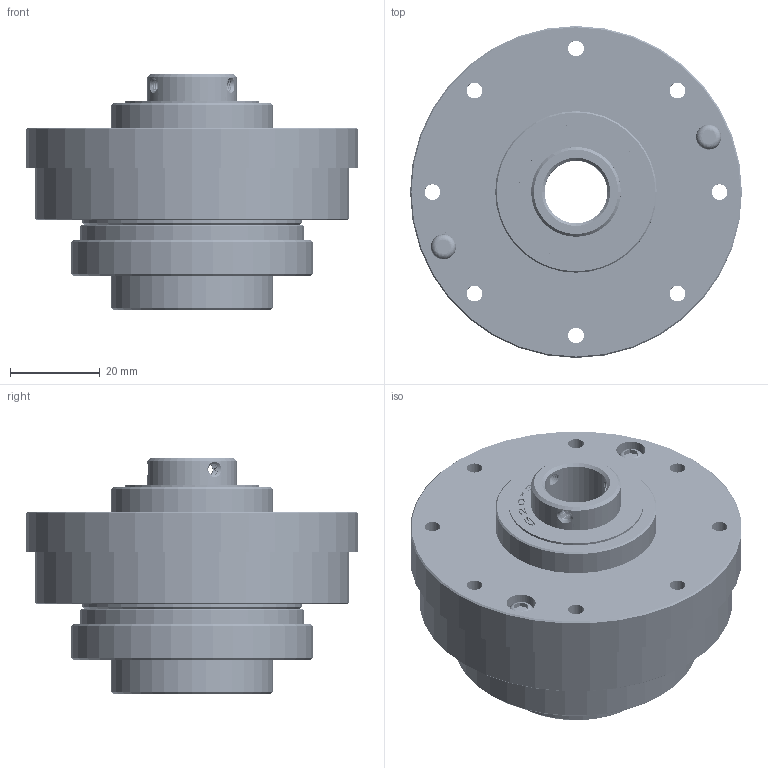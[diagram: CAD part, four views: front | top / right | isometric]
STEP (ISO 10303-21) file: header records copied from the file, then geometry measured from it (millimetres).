
FILE_DESCRIPTION(/* description */ (''),/* implementation_level */ '2;1');
FILE_NAME(/* name */ 'XBK14成品图.stp',/* time_stamp */ '2022-07-23T08:33:08+08:00',/* author */ (''),/* organization */ (''),/* preprocessor_version */ 'ST-DEVELOPER v16',/* originating_system */ 'SIEMENS PLM Software NX 10.0',/* authorisation */ '');
FILE_SCHEMA (('CONFIG_CONTROL_DESIGN'));
Products named in the file (16): 14柔性轴承保持架（日标）; G20305; M3X14; YM3X12; XBK14-6上盖板; XBK14-3-1凸轮; XBK14-1钢轮; 深沟球轴承6804; M2X6; XBK14-4-1-1销子; G49585; XBK14-4-1内芯; XBK14-4-2外圈; XBK14-2柔轮; 14柔性轴承（日标）_MODEL; XBK14成品图
Assembly tree (21 placements, depth 3):
  XBK14成品图
    XBK14-2柔轮
    XBK14-4-2外圈
    XBK14-4-1内芯
    G49585
    XBK14-4-1-1销子
    M2X6
    深沟球轴承6804  x2
    XBK14-1钢轮
    XBK14-3-1凸轮
    14柔性轴承（日标）_MODEL
      14柔性轴承保持架（日标）
    XBK14-6上盖板
    YM3X12  x2
    M3X14  x4
    G20305  x2
Bounding box: 74 x 74 x 52.5 mm (x, y, z)
Volume: 92149.2 mm3; surface area: 83303.7 mm2
Topology: 76 solids, 76 shells, 1103 faces, 2768 edges, 1816 vertices
Faces by surface type: plane 454, cylinder 249, cone 132, extrusion 123, bspline 74, sphere 51, torus 20
Full cylindrical faces by diameter (mm): 2.3 x1, 2.6 x2, 3.5 x52, 4 x2, 5.6 x2, 5.68 x4, 6 x4, 6.5 x2, 14 x1, 19.5 x2, 20 x6, 22 x2, 23 x4, 24 x3, 25.07 x1, 26 x1, 26.67 x2, 27 x2, 27.5 x1, 29 x4, 29.5 x1, 30 x4, 31.5 x1, 32 x4, 32.396 x2, 33.896 x2, 35 x1, 36 x4, 38 x3, 38.3 x1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
Entity records: 112777 total; most frequent: CARTESIAN_POINT 92380, ORIENTED_EDGE 3520, DIRECTION 3417, EDGE_CURVE 1760, AXIS2_PLACEMENT_3D 1398, VERTEX_POINT 1337, EDGE_LOOP 1332, ADVANCED_FACE 881
